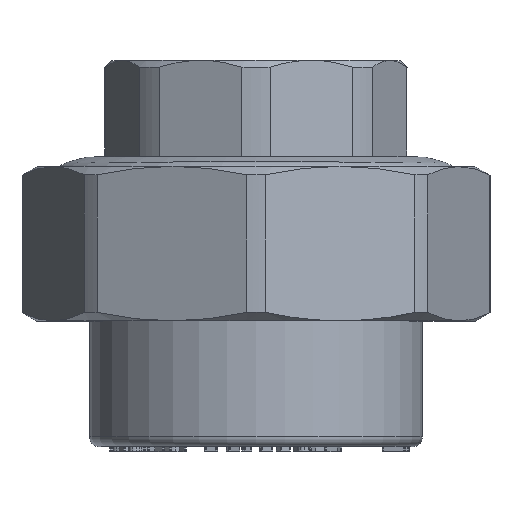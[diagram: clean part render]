
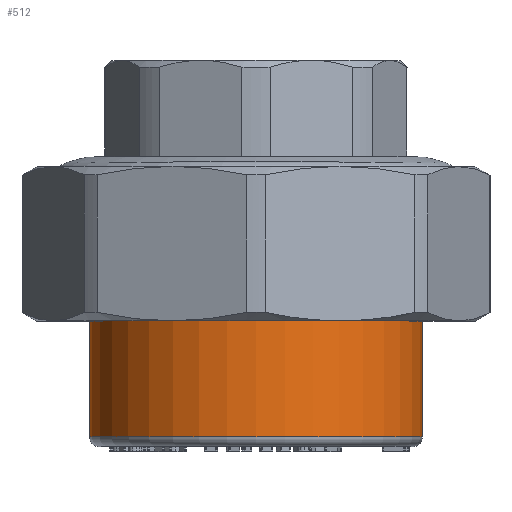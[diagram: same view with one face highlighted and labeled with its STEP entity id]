
A CAD part, top view. The second image highlights one B-rep face of the part: STEP entity #512.
In plain terms, the highlighted cylindrical face has radius 17.25 mm (diameter 34.5 mm), a full revolution.
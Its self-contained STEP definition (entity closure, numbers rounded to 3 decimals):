
#512=ADVANCED_FACE('',(#3804,#3806),#3808,.T.);
#3804=FACE_OUTER_BOUND('',#3805,.T.);
#3805=EDGE_LOOP('',(#8635));
#3806=FACE_OUTER_BOUND('',#3807,.T.);
#3807=EDGE_LOOP('',(#8636));
#3808=CYLINDRICAL_SURFACE('',#3809,17.25);
#3809=AXIS2_PLACEMENT_3D('',#3810,#3811,#3812);
#3810=CARTESIAN_POINT('',(0.,0.,0.));
#3811=DIRECTION('',(0.,1.,0.));
#3812=DIRECTION('',(-1.,0.,0.));
#8635=ORIENTED_EDGE('',*,*,#11933,.F.);
#8636=ORIENTED_EDGE('',*,*,#11051,.T.);
#11051=EDGE_CURVE('',#13502,#13502,#13503,.T.);
#11933=EDGE_CURVE('',#14827,#14827,#14828,.T.);
#13502=VERTEX_POINT('',#18169);
#13503=CIRCLE('',#18170,17.25);
#14827=VERTEX_POINT('',#21261);
#14828=CIRCLE('',#21262,17.25);
#18169=CARTESIAN_POINT('',(-17.25,1.,0.));
#18170=AXIS2_PLACEMENT_3D('',#18171,#18172,#18173);
#18171=CARTESIAN_POINT('',(0.,1.,0.));
#18172=DIRECTION('',(0.,1.,0.));
#18173=DIRECTION('',(-1.,0.,0.));
#21261=CARTESIAN_POINT('',(-17.25,16.5,0.));
#21262=AXIS2_PLACEMENT_3D('',#21263,#21264,#21265);
#21263=CARTESIAN_POINT('',(0.,16.5,0.));
#21264=DIRECTION('',(0.,1.,0.));
#21265=DIRECTION('',(-1.,0.,0.));
